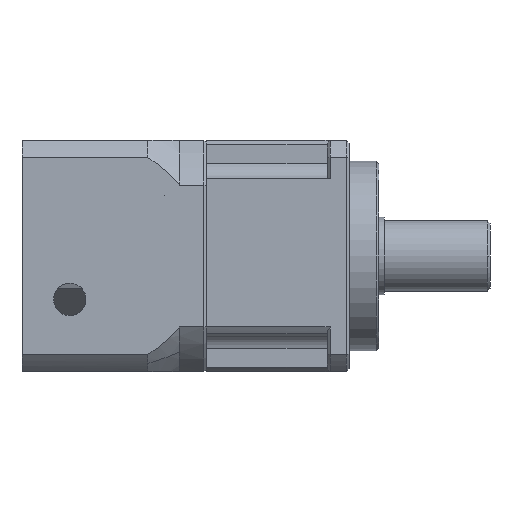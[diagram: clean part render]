
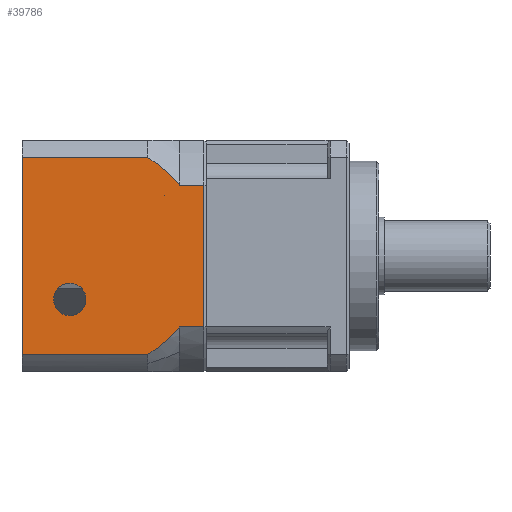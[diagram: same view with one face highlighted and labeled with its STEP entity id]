
A CAD part, front view. The second image highlights one B-rep face of the part: STEP entity #39786.
In plain terms, the highlighted planar face has unit normal (0, -1, 0) as drawn and (1, 0, 0) by its records, which use the part's own axes.
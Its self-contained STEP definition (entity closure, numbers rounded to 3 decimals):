
#442 = VERTEX_POINT ( 'NONE', #24281 ) ;
#1048 = ORIENTED_EDGE ( 'NONE', *, *, #38766, .T. ) ;
#1265 = EDGE_CURVE ( 'NONE', #6325, #2539, #40957, .T. ) ;
#1909 = DIRECTION ( 'NONE',  ( 0., 0., -1. ) ) ;
#1967 = DIRECTION ( 'NONE',  ( 1., 0., 0. ) ) ;
#1973 = CARTESIAN_POINT ( 'NONE',  ( 21.3, 13.117, 0. ) ) ;
#2163 = VERTEX_POINT ( 'NONE', #33149 ) ;
#2539 = VERTEX_POINT ( 'NONE', #6530 ) ;
#4139 = EDGE_CURVE ( 'NONE', #17062, #34867, #47133, .T. ) ;
#4850 = CARTESIAN_POINT ( 'NONE',  ( 21.3, 4.7, -13.089 ) ) ;
#5011 = VERTEX_POINT ( 'NONE', #17401 ) ;
#5535 = AXIS2_PLACEMENT_3D ( 'NONE', #48907, #48836, #48798 ) ;
#5570 = DIRECTION ( 'NONE',  ( 1., 0., 0. ) ) ;
#5604 = FACE_OUTER_BOUND ( 'NONE', #23619, .T. ) ;
#6325 = VERTEX_POINT ( 'NONE', #41702 ) ;
#6530 = CARTESIAN_POINT ( 'NONE',  ( 21.3, 23.887, -18.174 ) ) ;
#7254 = EDGE_CURVE ( 'NONE', #42347, #25844, #23731, .T. ) ;
#7600 = VECTOR ( 'NONE', #14117, 1000. ) ;
#7724 = EDGE_LOOP ( 'NONE', ( #1048, #22080 ) ) ;
#8382 = ORIENTED_EDGE ( 'NONE', *, *, #1265, .T. ) ;
#8950 = DIRECTION ( 'NONE',  ( 0., 1., 0. ) ) ;
#9285 = AXIS2_PLACEMENT_3D ( 'NONE', #30145, #30104, #29974 ) ;
#10600 = CARTESIAN_POINT ( 'NONE',  ( 21.3, 9.5, -5. ) ) ;
#11161 = CARTESIAN_POINT ( 'NONE',  ( 21.3, 29.7, 13.089 ) ) ;
#11565 = CARTESIAN_POINT ( 'NONE',  ( 21.3, 0.7, -21.3 ) ) ;
#11827 = EDGE_CURVE ( 'NONE', #17062, #2163, #40730, .T. ) ;
#12237 = ORIENTED_EDGE ( 'NONE', *, *, #41701, .T. ) ;
#12422 = EDGE_CURVE ( 'NONE', #2539, #20582, #32957, .T. ) ;
#14117 = DIRECTION ( 'NONE',  ( 0., 0., -1. ) ) ;
#14756 = FACE_BOUND ( 'NONE', #7724, .T. ) ;
#15868 = LINE ( 'NONE', #24422, #35199 ) ;
#16369 = ORIENTED_EDGE ( 'NONE', *, *, #40158, .T. ) ;
#17062 = VERTEX_POINT ( 'NONE', #11161 ) ;
#17193 = CARTESIAN_POINT ( 'NONE',  ( 21.3, 4.7, -21.3 ) ) ;
#17401 = CARTESIAN_POINT ( 'NONE',  ( 21.3, 34.2, -13.089 ) ) ;
#17495 = ORIENTED_EDGE ( 'NONE', *, *, #12422, .T. ) ;
#17973 = LINE ( 'NONE', #11565, #7600 ) ;
#19310 = DIRECTION ( 'NONE',  ( 0., 1., 0. ) ) ;
#19470 = CARTESIAN_POINT ( 'NONE',  ( 21.3, 29.7, 13.089 ) ) ;
#19506 = ORIENTED_EDGE ( 'NONE', *, *, #4139, .T. ) ;
#19507 = AXIS2_PLACEMENT_3D ( 'NONE', #45332, #22519, #49132 ) ;
#19526 = EDGE_CURVE ( 'NONE', #442, #6325, #17973, .T. ) ;
#19763 = ORIENTED_EDGE ( 'NONE', *, *, #43326, .F. ) ;
#20027 = CIRCLE ( 'NONE', #19507, 3. ) ;
#20582 = VERTEX_POINT ( 'NONE', #25611 ) ;
#20622 = DIRECTION ( 'NONE',  ( 0., -1., 0. ) ) ;
#22080 = ORIENTED_EDGE ( 'NONE', *, *, #7254, .T. ) ;
#22519 = DIRECTION ( 'NONE',  ( -1., 0., 0. ) ) ;
#23619 = EDGE_LOOP ( 'NONE', ( #31670, #19506, #12237, #36324, #8382, #17495, #16369, #19763 ) ) ;
#23731 = CIRCLE ( 'NONE', #5535, 3. ) ;
#24281 = CARTESIAN_POINT ( 'NONE',  ( 21.3, 0.7, 18.174 ) ) ;
#24422 = CARTESIAN_POINT ( 'NONE',  ( 21.3, 4.7, 18.174 ) ) ;
#24573 = LINE ( 'NONE', #4850, #34716 ) ;
#25611 = CARTESIAN_POINT ( 'NONE',  ( 21.3, 29.7, -13.089 ) ) ;
#25844 = VERTEX_POINT ( 'NONE', #48778 ) ;
#28441 = CARTESIAN_POINT ( 'NONE',  ( 21.3, 34.2, 0. ) ) ;
#28933 = PLANE ( 'NONE',  #32174 ) ;
#29974 = DIRECTION ( 'NONE',  ( 0., 0., -1. ) ) ;
#30104 = DIRECTION ( 'NONE',  ( 1., 0., 0. ) ) ;
#30145 = CARTESIAN_POINT ( 'NONE',  ( 21.3, 13.117, 0. ) ) ;
#30850 = VECTOR ( 'NONE', #31065, 1000. ) ;
#30903 = CARTESIAN_POINT ( 'NONE',  ( 21.3, 4.7, -18.174 ) ) ;
#31065 = DIRECTION ( 'NONE',  ( 0., 1., 0. ) ) ;
#31670 = ORIENTED_EDGE ( 'NONE', *, *, #11827, .F. ) ;
#32174 = AXIS2_PLACEMENT_3D ( 'NONE', #17193, #5570, #32752 ) ;
#32752 = DIRECTION ( 'NONE',  ( 0., 0., -1. ) ) ;
#32957 = CIRCLE ( 'NONE', #9285, 21.126 ) ;
#33149 = CARTESIAN_POINT ( 'NONE',  ( 21.3, 34.2, 13.089 ) ) ;
#34716 = VECTOR ( 'NONE', #8950, 1000. ) ;
#34867 = VERTEX_POINT ( 'NONE', #41114 ) ;
#35199 = VECTOR ( 'NONE', #20622, 1000. ) ;
#36324 = ORIENTED_EDGE ( 'NONE', *, *, #19526, .T. ) ;
#38766 = EDGE_CURVE ( 'NONE', #25844, #42347, #20027, .T. ) ;
#39786 = ADVANCED_FACE ( 'NONE', ( #14756, #5604 ), #28933, .T. ) ;
#40158 = EDGE_CURVE ( 'NONE', #20582, #5011, #24573, .T. ) ;
#40730 = LINE ( 'NONE', #19470, #49591 ) ;
#40957 = LINE ( 'NONE', #30903, #30850 ) ;
#41114 = CARTESIAN_POINT ( 'NONE',  ( 21.3, 23.887, 18.174 ) ) ;
#41432 = AXIS2_PLACEMENT_3D ( 'NONE', #1973, #1967, #1909 ) ;
#41701 = EDGE_CURVE ( 'NONE', #34867, #442, #15868, .T. ) ;
#41702 = CARTESIAN_POINT ( 'NONE',  ( 21.3, 0.7, -18.174 ) ) ;
#42347 = VERTEX_POINT ( 'NONE', #10600 ) ;
#43326 = EDGE_CURVE ( 'NONE', #2163, #5011, #48753, .T. ) ;
#45332 = CARTESIAN_POINT ( 'NONE',  ( 21.3, 9.5, -8. ) ) ;
#47133 = CIRCLE ( 'NONE', #41432, 21.126 ) ;
#47487 = DIRECTION ( 'NONE',  ( 0., 0., -1. ) ) ;
#47599 = VECTOR ( 'NONE', #47487, 1000. ) ;
#48753 = LINE ( 'NONE', #28441, #47599 ) ;
#48778 = CARTESIAN_POINT ( 'NONE',  ( 21.3, 9.5, -11. ) ) ;
#48798 = DIRECTION ( 'NONE',  ( 0., 0., -1. ) ) ;
#48836 = DIRECTION ( 'NONE',  ( -1., 0., 0. ) ) ;
#48907 = CARTESIAN_POINT ( 'NONE',  ( 21.3, 9.5, -8. ) ) ;
#49132 = DIRECTION ( 'NONE',  ( 0., 0., -1. ) ) ;
#49591 = VECTOR ( 'NONE', #19310, 1000. ) ;
